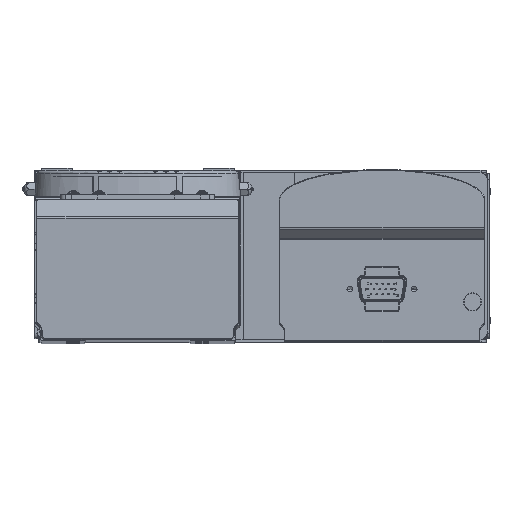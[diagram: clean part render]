
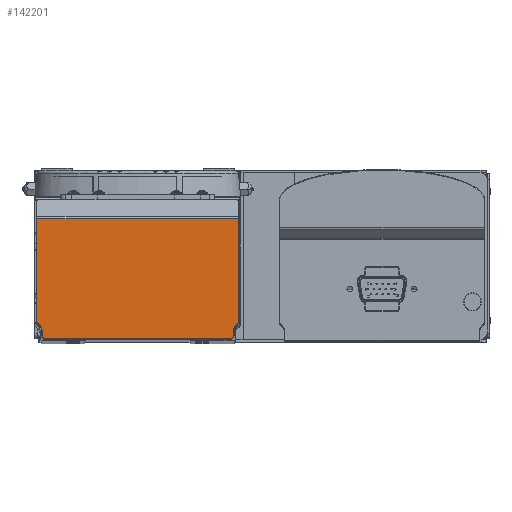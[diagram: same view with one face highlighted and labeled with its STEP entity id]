
A CAD part, top view. The second image highlights one B-rep face of the part: STEP entity #142201.
In plain terms, the highlighted planar face has unit normal (0, 0, 1).
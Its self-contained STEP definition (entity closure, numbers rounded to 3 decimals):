
#15 = LINE ( 'NONE', #46156, #70678 ) ;
#141 = VERTEX_POINT ( 'NONE', #26841 ) ;
#1200 = CARTESIAN_POINT ( 'NONE',  ( 37.874, -16.202, 1010. ) ) ;
#2550 = AXIS2_PLACEMENT_3D ( 'NONE', #111395, #7736, #53878 ) ;
#3071 = ORIENTED_EDGE ( 'NONE', *, *, #55846, .T. ) ;
#6059 = EDGE_CURVE ( 'NONE', #78857, #107701, #46682, .T. ) ;
#6071 = CARTESIAN_POINT ( 'NONE',  ( 39.2, 9., 1010. ) ) ;
#7203 = EDGE_CURVE ( 'NONE', #144913, #81458, #146165, .T. ) ;
#7736 = DIRECTION ( 'NONE',  ( 0., 0., 1. ) ) ;
#8283 = VERTEX_POINT ( 'NONE', #104430 ) ;
#11000 = FACE_OUTER_BOUND ( 'NONE', #73549, .T. ) ;
#11265 = ORIENTED_EDGE ( 'NONE', *, *, #44631, .T. ) ;
#12984 = ORIENTED_EDGE ( 'NONE', *, *, #16038, .T. ) ;
#13198 = CARTESIAN_POINT ( 'NONE',  ( 36.376, -21.2, 1010. ) ) ;
#13796 = CARTESIAN_POINT ( 'NONE',  ( 37.2, 9., 1010. ) ) ;
#14100 = ORIENTED_EDGE ( 'NONE', *, *, #121207, .T. ) ;
#14930 = CARTESIAN_POINT ( 'NONE',  ( -31.538, -22.538, 1010. ) ) ;
#15415 = ORIENTED_EDGE ( 'NONE', *, *, #116100, .T. ) ;
#16038 = EDGE_CURVE ( 'NONE', #81458, #57625, #45992, .T. ) ;
#16634 = VECTOR ( 'NONE', #130376, 1000. ) ;
#17855 = CIRCLE ( 'NONE', #102477, 2.3 ) ;
#23059 = VECTOR ( 'NONE', #141822, 1000. ) ;
#24213 = CARTESIAN_POINT ( 'NONE',  ( -39.2, 25.586, 1010. ) ) ;
#25184 = EDGE_CURVE ( 'NONE', #49986, #8283, #117478, .T. ) ;
#25958 = CARTESIAN_POINT ( 'NONE',  ( 39.2, -14.172, 1010. ) ) ;
#26841 = CARTESIAN_POINT ( 'NONE',  ( 39.2, 25.586, 1010. ) ) ;
#28021 = ORIENTED_EDGE ( 'NONE', *, *, #68142, .T. ) ;
#28872 = DIRECTION ( 'NONE',  ( -1., 0., 0. ) ) ;
#29466 = VERTEX_POINT ( 'NONE', #13198 ) ;
#31918 = CARTESIAN_POINT ( 'NONE',  ( -36.376, -21.2, 1010. ) ) ;
#34935 = CARTESIAN_POINT ( 'NONE',  ( -39.2, -14.172, 1010. ) ) ;
#36351 = CARTESIAN_POINT ( 'NONE',  ( 39.5, -17.828, 1010. ) ) ;
#36906 = ORIENTED_EDGE ( 'NONE', *, *, #57372, .T. ) ;
#38053 = LINE ( 'NONE', #84218, #16634 ) ;
#41253 = ORIENTED_EDGE ( 'NONE', *, *, #98330, .T. ) ;
#42600 = ORIENTED_EDGE ( 'NONE', *, *, #25184, .T. ) ;
#43806 = CARTESIAN_POINT ( 'NONE',  ( 38.702, -15.374, 1010. ) ) ;
#44631 = EDGE_CURVE ( 'NONE', #135777, #144913, #118637, .T. ) ;
#44967 = CIRCLE ( 'NONE', #148849, 1.7 ) ;
#45844 = DIRECTION ( 'NONE',  ( -1., 0., 0. ) ) ;
#45992 = LINE ( 'NONE', #92117, #137407 ) ;
#46156 = CARTESIAN_POINT ( 'NONE',  ( 31.538, -22.538, 1010. ) ) ;
#46401 = LINE ( 'NONE', #92523, #115669 ) ;
#46682 = LINE ( 'NONE', #92808, #48498 ) ;
#48498 = VECTOR ( 'NONE', #138961, 1000. ) ;
#49517 = LINE ( 'NONE', #95659, #23059 ) ;
#49986 = VERTEX_POINT ( 'NONE', #118856 ) ;
#52217 = DIRECTION ( 'NONE',  ( 0., 1., 0. ) ) ;
#53177 = VECTOR ( 'NONE', #148748, 1000. ) ;
#53878 = DIRECTION ( 'NONE',  ( -1., 0., 0. ) ) ;
#54306 = CARTESIAN_POINT ( 'NONE',  ( -39.5, -17.828, 1010. ) ) ;
#55846 = EDGE_CURVE ( 'NONE', #8283, #114188, #17855, .T. ) ;
#56428 = LINE ( 'NONE', #102566, #53177 ) ;
#57161 = PLANE ( 'NONE',  #134866 ) ;
#57372 = EDGE_CURVE ( 'NONE', #130536, #29466, #49517, .T. ) ;
#57625 = VERTEX_POINT ( 'NONE', #103130 ) ;
#59979 = DIRECTION ( 'NONE',  ( 0., 1., 0. ) ) ;
#61115 = DIRECTION ( 'NONE',  ( 0.707, -0.707, 0. ) ) ;
#61513 = CARTESIAN_POINT ( 'NONE',  ( -37.2, -17.828, 1010. ) ) ;
#67063 = VECTOR ( 'NONE', #59979, 1000. ) ;
#67785 = CIRCLE ( 'NONE', #2550, 1.7 ) ;
#68142 = EDGE_CURVE ( 'NONE', #29466, #49986, #56428, .T. ) ;
#70678 = VECTOR ( 'NONE', #92282, 1000. ) ;
#72388 = ORIENTED_EDGE ( 'NONE', *, *, #144383, .T. ) ;
#73549 = EDGE_LOOP ( 'NONE', ( #14100, #41253, #15415, #112459, #72388, #11265, #77636, #12984, #109303, #36906, #28021, #42600, #3071, #138532 ) ) ;
#77143 = CARTESIAN_POINT ( 'NONE',  ( -37.874, -16.202, 1010. ) ) ;
#77636 = ORIENTED_EDGE ( 'NONE', *, *, #7203, .T. ) ;
#78857 = VERTEX_POINT ( 'NONE', #24213 ) ;
#81458 = VERTEX_POINT ( 'NONE', #61513 ) ;
#82513 = DIRECTION ( 'NONE',  ( 0., 0., -1. ) ) ;
#84218 = CARTESIAN_POINT ( 'NONE',  ( -39.5, 25.586, 1010. ) ) ;
#86404 = CARTESIAN_POINT ( 'NONE',  ( -37.5, -14.172, 1010. ) ) ;
#92117 = CARTESIAN_POINT ( 'NONE',  ( -37.2, 9., 1010. ) ) ;
#92282 = DIRECTION ( 'NONE',  ( 0.707, 0.707, 0. ) ) ;
#92523 = CARTESIAN_POINT ( 'NONE',  ( -36.288, -21.288, 1010. ) ) ;
#92808 = CARTESIAN_POINT ( 'NONE',  ( -39.2, 9., 1010. ) ) ;
#93500 = VERTEX_POINT ( 'NONE', #25958 ) ;
#95659 = CARTESIAN_POINT ( 'NONE',  ( 0., -21.2, 1010. ) ) ;
#98330 = EDGE_CURVE ( 'NONE', #93500, #141, #109724, .T. ) ;
#100443 = DIRECTION ( 'NONE',  ( 0., 0., -1. ) ) ;
#102477 = AXIS2_PLACEMENT_3D ( 'NONE', #36351, #82513, #128661 ) ;
#102566 = CARTESIAN_POINT ( 'NONE',  ( 37.288, -20.288, 1010. ) ) ;
#103130 = CARTESIAN_POINT ( 'NONE',  ( -37.2, -20.376, 1010. ) ) ;
#103319 = CARTESIAN_POINT ( 'NONE',  ( 0., 9., 1010. ) ) ;
#104430 = CARTESIAN_POINT ( 'NONE',  ( 37.2, -17.828, 1010. ) ) ;
#107701 = VERTEX_POINT ( 'NONE', #34935 ) ;
#109303 = ORIENTED_EDGE ( 'NONE', *, *, #142616, .T. ) ;
#109724 = LINE ( 'NONE', #6071, #129935 ) ;
#111395 = CARTESIAN_POINT ( 'NONE',  ( 37.5, -14.172, 1010. ) ) ;
#111571 = VERTEX_POINT ( 'NONE', #43806 ) ;
#112459 = ORIENTED_EDGE ( 'NONE', *, *, #6059, .T. ) ;
#114188 = VERTEX_POINT ( 'NONE', #1200 ) ;
#115669 = VECTOR ( 'NONE', #138675, 1000. ) ;
#116100 = EDGE_CURVE ( 'NONE', #141, #78857, #38053, .T. ) ;
#117478 = LINE ( 'NONE', #13796, #67063 ) ;
#118637 = LINE ( 'NONE', #14930, #135531 ) ;
#118856 = CARTESIAN_POINT ( 'NONE',  ( 37.2, -20.376, 1010. ) ) ;
#121207 = EDGE_CURVE ( 'NONE', #111571, #93500, #67785, .T. ) ;
#122100 = CARTESIAN_POINT ( 'NONE',  ( -38.702, -15.374, 1010. ) ) ;
#124757 = EDGE_CURVE ( 'NONE', #114188, #111571, #15, .T. ) ;
#128661 = DIRECTION ( 'NONE',  ( -1., 0., 0. ) ) ;
#129935 = VECTOR ( 'NONE', #52217, 1000. ) ;
#130376 = DIRECTION ( 'NONE',  ( -1., 0., 0. ) ) ;
#130536 = VERTEX_POINT ( 'NONE', #31918 ) ;
#132561 = DIRECTION ( 'NONE',  ( 0., 0., 1. ) ) ;
#134866 = AXIS2_PLACEMENT_3D ( 'NONE', #103319, #149499, #45844 ) ;
#135531 = VECTOR ( 'NONE', #61115, 1000. ) ;
#135777 = VERTEX_POINT ( 'NONE', #122100 ) ;
#137407 = VECTOR ( 'NONE', #138266, 1000. ) ;
#138266 = DIRECTION ( 'NONE',  ( 0., -1., 0. ) ) ;
#138532 = ORIENTED_EDGE ( 'NONE', *, *, #124757, .T. ) ;
#138675 = DIRECTION ( 'NONE',  ( 0.707, -0.707, 0. ) ) ;
#138961 = DIRECTION ( 'NONE',  ( 0., -1., 0. ) ) ;
#141822 = DIRECTION ( 'NONE',  ( 1., 0., 0. ) ) ;
#142201 = ADVANCED_FACE ( 'NONE', ( #11000 ), #57161, .F. ) ;
#142616 = EDGE_CURVE ( 'NONE', #57625, #130536, #46401, .T. ) ;
#143891 = AXIS2_PLACEMENT_3D ( 'NONE', #54306, #100443, #146624 ) ;
#144383 = EDGE_CURVE ( 'NONE', #107701, #135777, #44967, .T. ) ;
#144913 = VERTEX_POINT ( 'NONE', #77143 ) ;
#146165 = CIRCLE ( 'NONE', #143891, 2.3 ) ;
#146624 = DIRECTION ( 'NONE',  ( -1., 0., 0. ) ) ;
#148748 = DIRECTION ( 'NONE',  ( 0.707, 0.707, 0. ) ) ;
#148849 = AXIS2_PLACEMENT_3D ( 'NONE', #86404, #132561, #28872 ) ;
#149499 = DIRECTION ( 'NONE',  ( 0., 0., -1. ) ) ;
